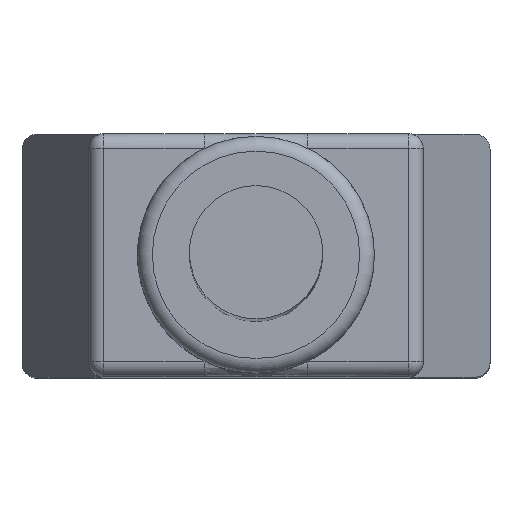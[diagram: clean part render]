
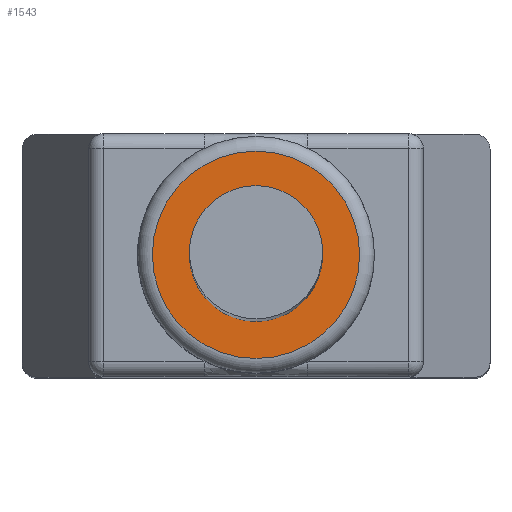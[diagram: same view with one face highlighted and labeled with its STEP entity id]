
A CAD part, top view. The second image highlights one B-rep face of the part: STEP entity #1543.
In plain terms, the highlighted planar face has unit normal (0, 0, 1).
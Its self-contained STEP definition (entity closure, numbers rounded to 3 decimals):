
#1476 = VERTEX_POINT('',#1477);
#1477 = CARTESIAN_POINT('',(3.5,0.,40.));
#1486 = EDGE_CURVE('',#1476,#1476,#1487,.T.);
#1487 = CIRCLE('',#1488,3.5);
#1488 = AXIS2_PLACEMENT_3D('',#1489,#1490,#1491);
#1489 = CARTESIAN_POINT('',(0.,0.,40.));
#1490 = DIRECTION('',(0.,0.,1.));
#1491 = DIRECTION('',(1.,0.,0.));
#1543 = ADVANCED_FACE('',(#1544,#1547),#1558,.T.);
#1544 = FACE_BOUND('',#1545,.T.);
#1545 = EDGE_LOOP('',(#1546));
#1546 = ORIENTED_EDGE('',*,*,#1486,.T.);
#1547 = FACE_BOUND('',#1548,.T.);
#1548 = EDGE_LOOP('',(#1549));
#1549 = ORIENTED_EDGE('',*,*,#1550,.F.);
#1550 = EDGE_CURVE('',#1551,#1551,#1553,.T.);
#1551 = VERTEX_POINT('',#1552);
#1552 = CARTESIAN_POINT('',(2.25,0.,40.));
#1553 = CIRCLE('',#1554,2.25);
#1554 = AXIS2_PLACEMENT_3D('',#1555,#1556,#1557);
#1555 = CARTESIAN_POINT('',(0.,0.,40.));
#1556 = DIRECTION('',(0.,0.,1.));
#1557 = DIRECTION('',(1.,0.,0.));
#1558 = PLANE('',#1559);
#1559 = AXIS2_PLACEMENT_3D('',#1560,#1561,#1562);
#1560 = CARTESIAN_POINT('',(0.,0.,40.));
#1561 = DIRECTION('',(0.,0.,1.));
#1562 = DIRECTION('',(1.,0.,0.));
